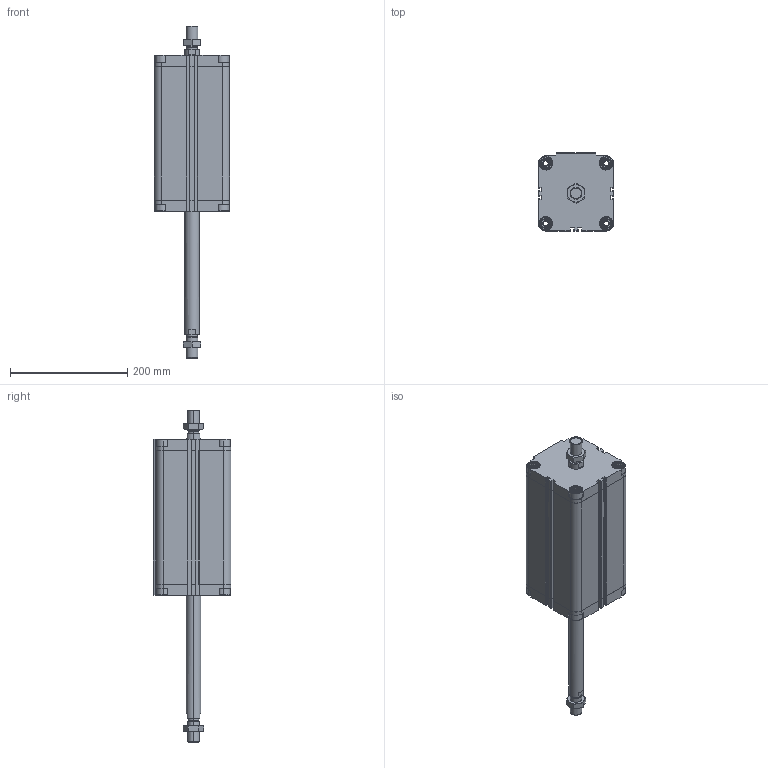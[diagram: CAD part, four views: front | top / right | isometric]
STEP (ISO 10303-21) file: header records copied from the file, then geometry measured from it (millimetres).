
FILE_DESCRIPTION (( 'STEP AP203' ), '1' );
FILE_NAME ('CDVU100-200M-P.STEP', '2020-07-21T16:41:29', ( '' ), ( '' ), 'SwSTEP 2.0', 'SolidWorks 2019', '' );
FILE_SCHEMA (( 'CONFIG_CONTROL_DESIGN' ));
Length unit declared in the file: millimetre
Products named in the file (1): CDVU100-200M-P
Bounding box: 128 x 133 x 566.5 mm (x, y, z)
Volume: 2848177.4 mm3; surface area: 392876.2 mm2
Topology: 4 solids, 4 shells, 706 faces, 1888 edges, 1234 vertices
Faces by surface type: plane 410, cylinder 216, cone 80
Entity records: 23055 total; most frequent: CARTESIAN_POINT 5265, ORIENTED_EDGE 3768, DIRECTION 3610, EDGE_CURVE 1884, AXIS2_PLACEMENT_3D 1235, VERTEX_POINT 1234, VECTOR 1140, LINE 1140
